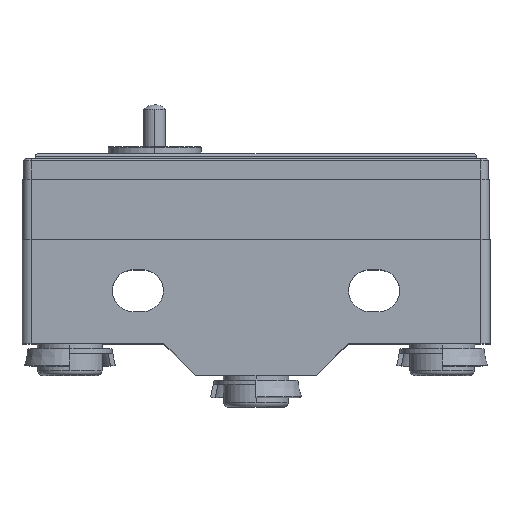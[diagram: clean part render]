
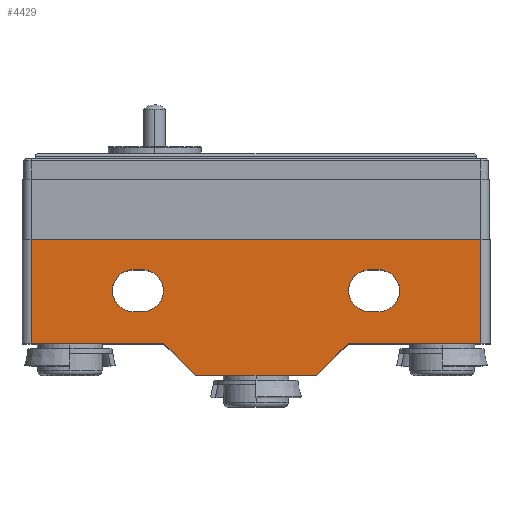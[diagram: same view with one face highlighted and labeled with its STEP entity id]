
A CAD part, top view. The second image highlights one B-rep face of the part: STEP entity #4429.
In plain terms, the highlighted planar face has unit normal (0, 0, 1).
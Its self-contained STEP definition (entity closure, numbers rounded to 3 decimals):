
#3 = EDGE_CURVE ( 'NONE', #1826, #1616, #2568, .T. ) ;
#57 = EDGE_CURVE ( 'NONE', #1861, #1885, #2684, .T. ) ;
#88 = EDGE_CURVE ( 'NONE', #1870, #1843, #2758, .T. ) ;
#100 = EDGE_CURVE ( 'NONE', #1843, #1599, #2779, .T. ) ;
#102 = EDGE_CURVE ( 'NONE', #1591, #1845, #395, .T. ) ;
#104 = EDGE_CURVE ( 'NONE', #1616, #1602, #397, .T. ) ;
#110 = EDGE_CURVE ( 'NONE', #1602, #1591, #2959, .T. ) ;
#164 = EDGE_CURVE ( 'NONE', #1845, #1826, #487, .T. ) ;
#182 = EDGE_CURVE ( 'NONE', #1896, #1838, #186, .T. ) ;
#186 = CIRCLE ( 'NONE', #528, 2.25 ) ;
#212 = EDGE_CURVE ( 'NONE', #1600, #1608, #3227, .T. ) ;
#280 = EDGE_CURVE ( 'NONE', #1600, #1599, #3419, .T. ) ;
#294 = EDGE_CURVE ( 'NONE', #1885, #1870, #3458, .T. ) ;
#297 = EDGE_CURVE ( 'NONE', #1612, #1861, #3464, .T. ) ;
#316 = CIRCLE ( 'NONE', #883, 2.25 ) ;
#317 = CIRCLE ( 'NONE', #955, 2.25 ) ;
#395 = CIRCLE ( 'NONE', #632, 2.25 ) ;
#397 = CIRCLE ( 'NONE', #635, 2.25 ) ;
#429 = EDGE_CURVE ( 'NONE', #1608, #1612, #3639, .T. ) ;
#445 = EDGE_CURVE ( 'NONE', #1620, #1601, #316, .T. ) ;
#446 = EDGE_CURVE ( 'NONE', #1601, #873, #3653, .T. ) ;
#451 = EDGE_CURVE ( 'NONE', #1838, #1620, #3656, .T. ) ;
#477 = EDGE_CURVE ( 'NONE', #873, #1896, #317, .T. ) ;
#487 = CIRCLE ( 'NONE', #730, 2.25 ) ;
#528 = AXIS2_PLACEMENT_3D ( 'NONE', #3134, #3141, #3142 ) ;
#532 = VECTOR ( 'NONE', #3229, 1000. ) ;
#555 = VECTOR ( 'NONE', #3421, 1000. ) ;
#579 = VECTOR ( 'NONE', #3460, 1000. ) ;
#622 = VECTOR ( 'NONE', #3466, 1000. ) ;
#630 = VECTOR ( 'NONE', #2781, 1000. ) ;
#632 = AXIS2_PLACEMENT_3D ( 'NONE', #2778, #2785, #2786 ) ;
#635 = AXIS2_PLACEMENT_3D ( 'NONE', #2945, #2946, #2947 ) ;
#643 = VECTOR ( 'NONE', #2961, 1000. ) ;
#647 = VECTOR ( 'NONE', #2760, 1000. ) ;
#648 = VECTOR ( 'NONE', #2686, 1000. ) ;
#712 = VECTOR ( 'NONE', #2570, 1000. ) ;
#730 = AXIS2_PLACEMENT_3D ( 'NONE', #3086, #3087, #3088 ) ;
#873 = VERTEX_POINT ( 'NONE', #3754 ) ;
#883 = AXIS2_PLACEMENT_3D ( 'NONE', #3632, #3651, #3652 ) ;
#892 = VECTOR ( 'NONE', #3658, 1000. ) ;
#901 = VECTOR ( 'NONE', #3655, 1000. ) ;
#909 = FACE_BOUND ( 'NONE', #1628, .T. ) ;
#955 = AXIS2_PLACEMENT_3D ( 'NONE', #3663, #3664, #3665 ) ;
#987 = VECTOR ( 'NONE', #3641, 1000. ) ;
#1031 = AXIS2_PLACEMENT_3D ( 'NONE', #4495, #4496, #4497 ) ;
#1038 = FACE_OUTER_BOUND ( 'NONE', #1627, .T. ) ;
#1316 = FACE_BOUND ( 'NONE', #1629, .T. ) ;
#1591 = VERTEX_POINT ( 'NONE', #3830 ) ;
#1599 = VERTEX_POINT ( 'NONE', #3838 ) ;
#1600 = VERTEX_POINT ( 'NONE', #3839 ) ;
#1601 = VERTEX_POINT ( 'NONE', #3840 ) ;
#1602 = VERTEX_POINT ( 'NONE', #3841 ) ;
#1608 = VERTEX_POINT ( 'NONE', #3847 ) ;
#1612 = VERTEX_POINT ( 'NONE', #3851 ) ;
#1616 = VERTEX_POINT ( 'NONE', #3855 ) ;
#1620 = VERTEX_POINT ( 'NONE', #3859 ) ;
#1627 = EDGE_LOOP ( 'NONE', ( #2289, #2287, #2288, #2286, #2285, #2284, #2283, #2282 ) ) ;
#1628 = EDGE_LOOP ( 'NONE', ( #2294, #2292, #2293, #2291, #2290 ) ) ;
#1629 = EDGE_LOOP ( 'NONE', ( #2299, #2297, #2298, #2296, #2295 ) ) ;
#1826 = VERTEX_POINT ( 'NONE', #3872 ) ;
#1838 = VERTEX_POINT ( 'NONE', #3884 ) ;
#1843 = VERTEX_POINT ( 'NONE', #3889 ) ;
#1845 = VERTEX_POINT ( 'NONE', #3891 ) ;
#1861 = VERTEX_POINT ( 'NONE', #3907 ) ;
#1870 = VERTEX_POINT ( 'NONE', #3916 ) ;
#1885 = VERTEX_POINT ( 'NONE', #3931 ) ;
#1896 = VERTEX_POINT ( 'NONE', #3942 ) ;
#2282 = ORIENTED_EDGE ( 'NONE', *, *, #100, .T. ) ;
#2283 = ORIENTED_EDGE ( 'NONE', *, *, #88, .T. ) ;
#2284 = ORIENTED_EDGE ( 'NONE', *, *, #294, .T. ) ;
#2285 = ORIENTED_EDGE ( 'NONE', *, *, #57, .T. ) ;
#2286 = ORIENTED_EDGE ( 'NONE', *, *, #297, .T. ) ;
#2287 = ORIENTED_EDGE ( 'NONE', *, *, #212, .T. ) ;
#2288 = ORIENTED_EDGE ( 'NONE', *, *, #429, .T. ) ;
#2289 = ORIENTED_EDGE ( 'NONE', *, *, #280, .F. ) ;
#2290 = ORIENTED_EDGE ( 'NONE', *, *, #102, .F. ) ;
#2291 = ORIENTED_EDGE ( 'NONE', *, *, #164, .F. ) ;
#2292 = ORIENTED_EDGE ( 'NONE', *, *, #104, .F. ) ;
#2293 = ORIENTED_EDGE ( 'NONE', *, *, #3, .F. ) ;
#2294 = ORIENTED_EDGE ( 'NONE', *, *, #110, .F. ) ;
#2295 = ORIENTED_EDGE ( 'NONE', *, *, #477, .F. ) ;
#2296 = ORIENTED_EDGE ( 'NONE', *, *, #182, .F. ) ;
#2297 = ORIENTED_EDGE ( 'NONE', *, *, #445, .F. ) ;
#2298 = ORIENTED_EDGE ( 'NONE', *, *, #451, .F. ) ;
#2299 = ORIENTED_EDGE ( 'NONE', *, *, #446, .F. ) ;
#2568 = LINE ( 'NONE', #2569, #712 ) ;
#2569 = CARTESIAN_POINT ( 'NONE',  ( -13.2, -0.55, 9. ) ) ;
#2570 = DIRECTION ( 'NONE',  ( -1., 0., 0. ) ) ;
#2684 = LINE ( 'NONE', #2685, #648 ) ;
#2685 = CARTESIAN_POINT ( 'NONE',  ( 6.5, -11.9, 9. ) ) ;
#2686 = DIRECTION ( 'NONE',  ( 1., 0., 0. ) ) ;
#2758 = LINE ( 'NONE', #2759, #647 ) ;
#2759 = CARTESIAN_POINT ( 'NONE',  ( 25.15, -8.5, 9. ) ) ;
#2760 = DIRECTION ( 'NONE',  ( 1., 0., 0. ) ) ;
#2778 = CARTESIAN_POINT ( 'NONE',  ( -12.2, -2.8, 9. ) ) ;
#2779 = LINE ( 'NONE', #2780, #630 ) ;
#2780 = CARTESIAN_POINT ( 'NONE',  ( 24.15, 0., 9. ) ) ;
#2781 = DIRECTION ( 'NONE',  ( 0., 1., 0. ) ) ;
#2785 = DIRECTION ( 'NONE',  ( 0., 0., 1. ) ) ;
#2786 = DIRECTION ( 'NONE',  ( 1., 0., 0. ) ) ;
#2945 = CARTESIAN_POINT ( 'NONE',  ( -13.2, -2.8, 9. ) ) ;
#2946 = DIRECTION ( 'NONE',  ( 0., 0., 1. ) ) ;
#2947 = DIRECTION ( 'NONE',  ( 1., 0., 0. ) ) ;
#2959 = LINE ( 'NONE', #2960, #643 ) ;
#2960 = CARTESIAN_POINT ( 'NONE',  ( -13.2, -5.05, 9. ) ) ;
#2961 = DIRECTION ( 'NONE',  ( 1., 0., 0. ) ) ;
#3086 = CARTESIAN_POINT ( 'NONE',  ( -12.2, -2.8, 9. ) ) ;
#3087 = DIRECTION ( 'NONE',  ( 0., 0., 1. ) ) ;
#3088 = DIRECTION ( 'NONE',  ( 1., 0., 0. ) ) ;
#3134 = CARTESIAN_POINT ( 'NONE',  ( 13.2, -2.8, 9. ) ) ;
#3141 = DIRECTION ( 'NONE',  ( 0., 0., 1. ) ) ;
#3142 = DIRECTION ( 'NONE',  ( 1., 0., 0. ) ) ;
#3227 = LINE ( 'NONE', #3228, #532 ) ;
#3228 = CARTESIAN_POINT ( 'NONE',  ( -24.15, 0., 9. ) ) ;
#3229 = DIRECTION ( 'NONE',  ( 0., -1., 0. ) ) ;
#3419 = LINE ( 'NONE', #3420, #555 ) ;
#3420 = CARTESIAN_POINT ( 'NONE',  ( -24.15, 2.7, 9. ) ) ;
#3421 = DIRECTION ( 'NONE',  ( 1., 0., 0. ) ) ;
#3458 = LINE ( 'NONE', #3459, #579 ) ;
#3459 = CARTESIAN_POINT ( 'NONE',  ( 9.9, -8.5, 9. ) ) ;
#3460 = DIRECTION ( 'NONE',  ( 0.707, 0.707, 0. ) ) ;
#3464 = LINE ( 'NONE', #3465, #622 ) ;
#3465 = CARTESIAN_POINT ( 'NONE',  ( -6.5, -11.9, 9. ) ) ;
#3466 = DIRECTION ( 'NONE',  ( 0.707, -0.707, 0. ) ) ;
#3632 = CARTESIAN_POINT ( 'NONE',  ( 12.2, -2.8, 9. ) ) ;
#3639 = LINE ( 'NONE', #3640, #987 ) ;
#3640 = CARTESIAN_POINT ( 'NONE',  ( -9.9, -8.5, 9. ) ) ;
#3641 = DIRECTION ( 'NONE',  ( 1., 0., 0. ) ) ;
#3651 = DIRECTION ( 'NONE',  ( 0., 0., 1. ) ) ;
#3652 = DIRECTION ( 'NONE',  ( 1., 0., 0. ) ) ;
#3653 = LINE ( 'NONE', #3654, #901 ) ;
#3654 = CARTESIAN_POINT ( 'NONE',  ( 12.2, -5.05, 9. ) ) ;
#3655 = DIRECTION ( 'NONE',  ( 1., 0., 0. ) ) ;
#3656 = LINE ( 'NONE', #3657, #892 ) ;
#3657 = CARTESIAN_POINT ( 'NONE',  ( 12.2, -0.55, 9. ) ) ;
#3658 = DIRECTION ( 'NONE',  ( -1., 0., 0. ) ) ;
#3663 = CARTESIAN_POINT ( 'NONE',  ( 13.2, -2.8, 9. ) ) ;
#3664 = DIRECTION ( 'NONE',  ( 0., 0., 1. ) ) ;
#3665 = DIRECTION ( 'NONE',  ( 1., 0., 0. ) ) ;
#3754 = CARTESIAN_POINT ( 'NONE',  ( 13.2, -5.05, 9. ) ) ;
#3830 = CARTESIAN_POINT ( 'NONE',  ( -12.2, -5.05, 9. ) ) ;
#3838 = CARTESIAN_POINT ( 'NONE',  ( 24.15, 2.7, 9. ) ) ;
#3839 = CARTESIAN_POINT ( 'NONE',  ( -24.15, 2.7, 9. ) ) ;
#3840 = CARTESIAN_POINT ( 'NONE',  ( 12.2, -5.05, 9. ) ) ;
#3841 = CARTESIAN_POINT ( 'NONE',  ( -13.2, -5.05, 9. ) ) ;
#3847 = CARTESIAN_POINT ( 'NONE',  ( -24.15, -8.5, 9. ) ) ;
#3851 = CARTESIAN_POINT ( 'NONE',  ( -9.9, -8.5, 9. ) ) ;
#3855 = CARTESIAN_POINT ( 'NONE',  ( -13.2, -0.55, 9. ) ) ;
#3859 = CARTESIAN_POINT ( 'NONE',  ( 12.2, -0.55, 9. ) ) ;
#3872 = CARTESIAN_POINT ( 'NONE',  ( -12.2, -0.55, 9. ) ) ;
#3884 = CARTESIAN_POINT ( 'NONE',  ( 13.2, -0.55, 9. ) ) ;
#3889 = CARTESIAN_POINT ( 'NONE',  ( 24.15, -8.5, 9. ) ) ;
#3891 = CARTESIAN_POINT ( 'NONE',  ( -9.95, -2.8, 9. ) ) ;
#3907 = CARTESIAN_POINT ( 'NONE',  ( -6.5, -11.9, 9. ) ) ;
#3916 = CARTESIAN_POINT ( 'NONE',  ( 9.9, -8.5, 9. ) ) ;
#3931 = CARTESIAN_POINT ( 'NONE',  ( 6.5, -11.9, 9. ) ) ;
#3942 = CARTESIAN_POINT ( 'NONE',  ( 15.45, -2.8, 9. ) ) ;
#4429 = ADVANCED_FACE ( 'NONE', ( #1316, #909, #1038 ), #4494, .F. ) ;
#4494 = PLANE ( 'NONE',  #1031 ) ;
#4495 = CARTESIAN_POINT ( 'NONE',  ( 0., 0., 9. ) ) ;
#4496 = DIRECTION ( 'NONE',  ( 0., 0., -1. ) ) ;
#4497 = DIRECTION ( 'NONE',  ( -1., 0., 0. ) ) ;
